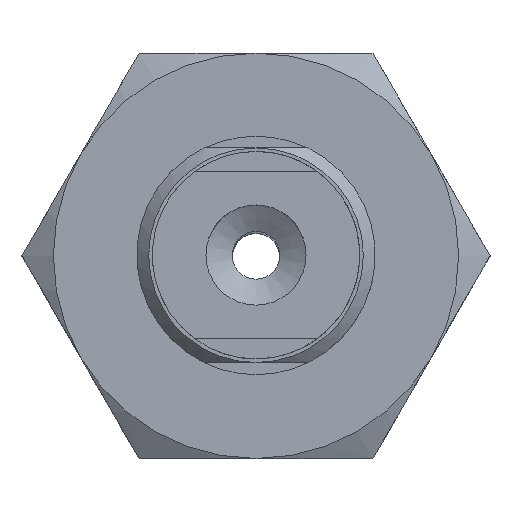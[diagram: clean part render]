
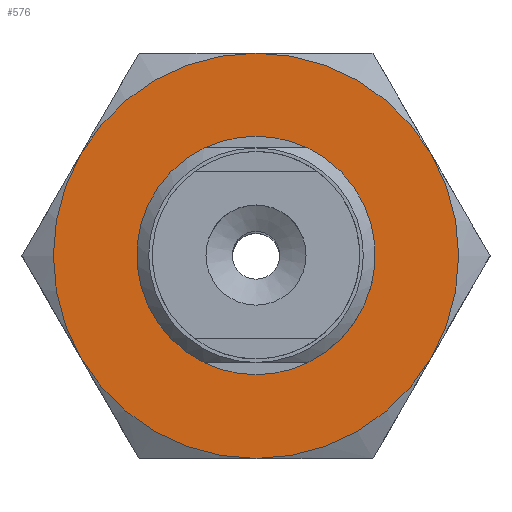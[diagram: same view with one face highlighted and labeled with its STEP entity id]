
A CAD part, top view. The second image highlights one B-rep face of the part: STEP entity #576.
In plain terms, the highlighted planar face has unit normal (0, 0, 1).
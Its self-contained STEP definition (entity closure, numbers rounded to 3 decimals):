
#576=ADVANCED_FACE('',(#804,#805),#806,.T.);
#804=FACE_BOUND('',#1114,.T.);
#805=FACE_OUTER_BOUND('',#1115,.T.);
#806=PLANE('',#1116);
#1114=EDGE_LOOP('',(#1752));
#1115=EDGE_LOOP('',(#1753,#1754,#1755,#1756,#1757,#1758));
#1116=AXIS2_PLACEMENT_3D('',#1759,#1760,#1761);
#1752=ORIENTED_EDGE('',*,*,#2253,.F.);
#1753=ORIENTED_EDGE('',*,*,#2228,.F.);
#1754=ORIENTED_EDGE('',*,*,#2243,.F.);
#1755=ORIENTED_EDGE('',*,*,#2247,.F.);
#1756=ORIENTED_EDGE('',*,*,#2251,.F.);
#1757=ORIENTED_EDGE('',*,*,#2230,.F.);
#1758=ORIENTED_EDGE('',*,*,#2223,.F.);
#1759=CARTESIAN_POINT('',(-9.815,-8.5,4.0));
#1760=DIRECTION('',(0.0,0.0,1.0));
#1761=DIRECTION('',(1.0,0.0,0.0));
#2223=EDGE_CURVE('',#2513,#2500,#2515,.T.);
#2228=EDGE_CURVE('',#2522,#2513,#2525,.T.);
#2230=EDGE_CURVE('',#2500,#2510,#2527,.T.);
#2243=EDGE_CURVE('',#2543,#2522,#2548,.T.);
#2247=EDGE_CURVE('',#2534,#2543,#2552,.T.);
#2251=EDGE_CURVE('',#2510,#2534,#2557,.T.);
#2253=EDGE_CURVE('',#2559,#2559,#2560,.T.);
#2500=VERTEX_POINT('',#3016);
#2510=VERTEX_POINT('',#3043);
#2513=VERTEX_POINT('',#3054);
#2515=CIRCLE('',#3060,8.5);
#2522=VERTEX_POINT('',#3075);
#2525=CIRCLE('',#3082,8.5);
#2527=CIRCLE('',#3088,8.5);
#2534=VERTEX_POINT('',#3104);
#2543=VERTEX_POINT('',#3130);
#2548=CIRCLE('',#3147,8.5);
#2552=CIRCLE('',#3156,8.5);
#2557=CIRCLE('',#3161,8.5);
#2559=VERTEX_POINT('',#3167);
#2560=CIRCLE('',#3168,4.5);
#3016=CARTESIAN_POINT('',(-7.361,4.25,4.0));
#3043=CARTESIAN_POINT('',(0.,8.5,4.0));
#3054=CARTESIAN_POINT('',(-7.361,-4.25,4.0));
#3060=AXIS2_PLACEMENT_3D('',#3530,#3531,#3532);
#3075=CARTESIAN_POINT('',(0.,-8.5,4.0));
#3082=AXIS2_PLACEMENT_3D('',#3536,#3537,#3538);
#3088=AXIS2_PLACEMENT_3D('',#3539,#3540,#3541);
#3104=CARTESIAN_POINT('',(7.361,4.25,4.0));
#3130=CARTESIAN_POINT('',(7.361,-4.25,4.0));
#3147=AXIS2_PLACEMENT_3D('',#3547,#3548,#3549);
#3156=AXIS2_PLACEMENT_3D('',#3554,#3555,#3556);
#3161=AXIS2_PLACEMENT_3D('',#3566,#3567,#3568);
#3167=CARTESIAN_POINT('',(0.0,-4.5,4.0));
#3168=AXIS2_PLACEMENT_3D('',#3569,#3570,#3571);
#3530=CARTESIAN_POINT('',(0.,0.,4.0));
#3531=DIRECTION('',(0.,0.,-1.0));
#3532=DIRECTION('',(0.866,0.5,0.));
#3536=CARTESIAN_POINT('',(0.,0.,4.0));
#3537=DIRECTION('',(0.,0.,-1.0));
#3538=DIRECTION('',(0.866,0.5,0.));
#3539=CARTESIAN_POINT('',(0.,0.,4.0));
#3540=DIRECTION('',(0.,0.,-1.0));
#3541=DIRECTION('',(0.866,0.5,0.));
#3547=CARTESIAN_POINT('',(0.,0.,4.0));
#3548=DIRECTION('',(0.,0.,-1.0));
#3549=DIRECTION('',(0.866,0.5,0.));
#3554=CARTESIAN_POINT('',(0.,0.,4.0));
#3555=DIRECTION('',(0.,0.,-1.0));
#3556=DIRECTION('',(0.866,0.5,0.));
#3566=CARTESIAN_POINT('',(0.,0.,4.0));
#3567=DIRECTION('',(0.,0.,-1.0));
#3568=DIRECTION('',(0.866,0.5,0.));
#3569=CARTESIAN_POINT('',(0.0,0.0,4.0));
#3570=DIRECTION('',(0.0,0.,1.0));
#3571=DIRECTION('',(0.0,-1.0,0.));
